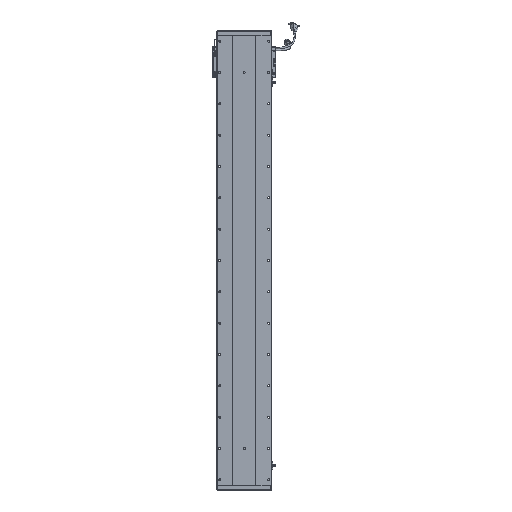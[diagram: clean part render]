
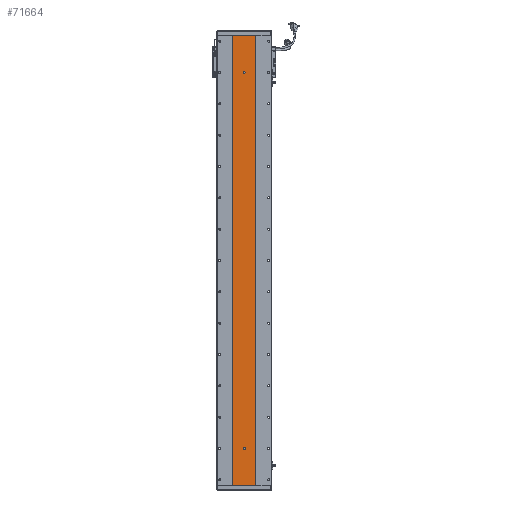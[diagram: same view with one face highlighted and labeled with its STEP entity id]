
A CAD part, front view. The second image highlights one B-rep face of the part: STEP entity #71664.
In plain terms, the highlighted planar face has unit normal (0, -1, 0).
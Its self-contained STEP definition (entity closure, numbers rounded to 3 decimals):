
#399 = DIRECTION ( 'NONE',  ( 0., 0., -1. ) ) ;
#529 = DIRECTION ( 'NONE',  ( 0., 1., 0. ) ) ;
#743 = CIRCLE ( 'NONE', #97708, 3. ) ;
#2106 = EDGE_LOOP ( 'NONE', ( #47056, #19228, #8086, #7489, #86736 ) ) ;
#2882 = DIRECTION ( 'NONE',  ( 1., 0., 0. ) ) ;
#3735 = VERTEX_POINT ( 'NONE', #79257 ) ;
#4926 = FACE_BOUND ( 'NONE', #35235, .T. ) ;
#7489 = ORIENTED_EDGE ( 'NONE', *, *, #50246, .F. ) ;
#8086 = ORIENTED_EDGE ( 'NONE', *, *, #47304, .F. ) ;
#8826 = PLANE ( 'NONE',  #48393 ) ;
#10024 = VERTEX_POINT ( 'NONE', #72390 ) ;
#11588 = VERTEX_POINT ( 'NONE', #69381 ) ;
#12566 = CARTESIAN_POINT ( 'NONE',  ( 3277.529, 1415.701, 120. ) ) ;
#12675 = EDGE_CURVE ( 'NONE', #44612, #71404, #23652, .T. ) ;
#13235 = AXIS2_PLACEMENT_3D ( 'NONE', #52448, #55390, #65189 ) ;
#14333 = CARTESIAN_POINT ( 'NONE',  ( 3283.529, 1415.701, 120. ) ) ;
#16354 = CARTESIAN_POINT ( 'NONE',  ( 3244.748, 1415.701, 1437. ) ) ;
#16861 = LINE ( 'NONE', #59311, #35762 ) ;
#17826 = AXIS2_PLACEMENT_3D ( 'NONE', #31074, #91615, #399 ) ;
#18028 = ORIENTED_EDGE ( 'NONE', *, *, #47496, .T. ) ;
#18218 = LINE ( 'NONE', #22168, #90107 ) ;
#19228 = ORIENTED_EDGE ( 'NONE', *, *, #86811, .F. ) ;
#19736 = CARTESIAN_POINT ( 'NONE',  ( 3244.748, 1415.701, 1437. ) ) ;
#20018 = AXIS2_PLACEMENT_3D ( 'NONE', #93466, #86277, #79410 ) ;
#21148 = VERTEX_POINT ( 'NONE', #92666 ) ;
#22168 = CARTESIAN_POINT ( 'NONE',  ( 3277.529, 1415.701, 120. ) ) ;
#22649 = DIRECTION ( 'NONE',  ( 0., -1., 0. ) ) ;
#23290 = DIRECTION ( 'NONE',  ( 0., 0., 1. ) ) ;
#23652 = CIRCLE ( 'NONE', #49372, 3. ) ;
#25276 = CARTESIAN_POINT ( 'NONE',  ( 3244.748, 1415.701, 0. ) ) ;
#26871 = DIRECTION ( 'NONE',  ( 0., 0., -1. ) ) ;
#27139 = LINE ( 'NONE', #25276, #47234 ) ;
#27336 = ORIENTED_EDGE ( 'NONE', *, *, #30597, .F. ) ;
#29490 = ORIENTED_EDGE ( 'NONE', *, *, #65807, .T. ) ;
#30597 = EDGE_CURVE ( 'NONE', #21148, #83145, #16861, .T. ) ;
#30911 = DIRECTION ( 'NONE',  ( 0., 0., -1. ) ) ;
#31074 = CARTESIAN_POINT ( 'NONE',  ( 3280.529, 1415.701, 117. ) ) ;
#32669 = CIRCLE ( 'NONE', #20018, 3. ) ;
#35235 = EDGE_LOOP ( 'NONE', ( #90416, #50056 ) ) ;
#35274 = DIRECTION ( 'NONE',  ( 0., 0., -1. ) ) ;
#35762 = VECTOR ( 'NONE', #66219, 1000. ) ;
#35927 = CARTESIAN_POINT ( 'NONE',  ( 3280.529, 1415.701, 1321.5 ) ) ;
#38183 = DIRECTION ( 'NONE',  ( 0., -1., 0. ) ) ;
#42042 = CARTESIAN_POINT ( 'NONE',  ( 3316.311, 1415.701, 1437. ) ) ;
#44612 = VERTEX_POINT ( 'NONE', #64200 ) ;
#45783 = CARTESIAN_POINT ( 'NONE',  ( 3280.529, 1415.701, 117. ) ) ;
#47056 = ORIENTED_EDGE ( 'NONE', *, *, #75923, .F. ) ;
#47234 = VECTOR ( 'NONE', #2882, 1000. ) ;
#47304 = EDGE_CURVE ( 'NONE', #60506, #48689, #32669, .T. ) ;
#47496 = EDGE_CURVE ( 'NONE', #21148, #10024, #91436, .T. ) ;
#48393 = AXIS2_PLACEMENT_3D ( 'NONE', #16354, #529, #23290 ) ;
#48689 = VERTEX_POINT ( 'NONE', #12566 ) ;
#49372 = AXIS2_PLACEMENT_3D ( 'NONE', #90481, #38183, #30911 ) ;
#49877 = EDGE_CURVE ( 'NONE', #71404, #44612, #73615, .T. ) ;
#50056 = ORIENTED_EDGE ( 'NONE', *, *, #49877, .F. ) ;
#50246 = EDGE_CURVE ( 'NONE', #88420, #60506, #82939, .T. ) ;
#51834 = CIRCLE ( 'NONE', #17826, 3. ) ;
#52448 = CARTESIAN_POINT ( 'NONE',  ( 3280.529, 1415.701, 1318.5 ) ) ;
#53403 = EDGE_CURVE ( 'NONE', #11588, #88420, #51834, .T. ) ;
#55390 = DIRECTION ( 'NONE',  ( 0., -1., 0. ) ) ;
#56308 = VECTOR ( 'NONE', #35274, 1000. ) ;
#57066 = VECTOR ( 'NONE', #65417, 1000. ) ;
#57208 = CARTESIAN_POINT ( 'NONE',  ( 3316.311, 1415.701, 1437. ) ) ;
#57227 = CARTESIAN_POINT ( 'NONE',  ( 3283.529, 1415.701, 120. ) ) ;
#59311 = CARTESIAN_POINT ( 'NONE',  ( 3244.748, 1415.701, 1437. ) ) ;
#60330 = FACE_BOUND ( 'NONE', #2106, .T. ) ;
#60506 = VERTEX_POINT ( 'NONE', #14333 ) ;
#64200 = CARTESIAN_POINT ( 'NONE',  ( 3280.529, 1415.701, 1315.5 ) ) ;
#65189 = DIRECTION ( 'NONE',  ( 0., 0., -1. ) ) ;
#65417 = DIRECTION ( 'NONE',  ( 0., 0., 1. ) ) ;
#65807 = EDGE_CURVE ( 'NONE', #10024, #3735, #27139, .T. ) ;
#66012 = CARTESIAN_POINT ( 'NONE',  ( 3283.529, 1415.701, 117. ) ) ;
#66219 = DIRECTION ( 'NONE',  ( 1., 0., 0. ) ) ;
#69381 = CARTESIAN_POINT ( 'NONE',  ( 3280.529, 1415.701, 114. ) ) ;
#70134 = EDGE_CURVE ( 'NONE', #83145, #3735, #72522, .T. ) ;
#71404 = VERTEX_POINT ( 'NONE', #35927 ) ;
#71664 = ADVANCED_FACE ( 'NONE', ( #60330, #4926, #73316 ), #8826, .F. ) ;
#72390 = CARTESIAN_POINT ( 'NONE',  ( 3244.748, 1415.701, 0. ) ) ;
#72522 = LINE ( 'NONE', #57208, #97065 ) ;
#73316 = FACE_OUTER_BOUND ( 'NONE', #96087, .T. ) ;
#73615 = CIRCLE ( 'NONE', #13235, 3. ) ;
#75923 = EDGE_CURVE ( 'NONE', #79096, #11588, #743, .T. ) ;
#77540 = CARTESIAN_POINT ( 'NONE',  ( 3277.529, 1415.701, 117. ) ) ;
#79096 = VERTEX_POINT ( 'NONE', #77540 ) ;
#79257 = CARTESIAN_POINT ( 'NONE',  ( 3316.311, 1415.701, 0. ) ) ;
#79410 = DIRECTION ( 'NONE',  ( 0., 0., -1. ) ) ;
#82939 = LINE ( 'NONE', #57227, #57066 ) ;
#83145 = VERTEX_POINT ( 'NONE', #42042 ) ;
#86277 = DIRECTION ( 'NONE',  ( 0., -1., 0. ) ) ;
#86736 = ORIENTED_EDGE ( 'NONE', *, *, #53403, .F. ) ;
#86811 = EDGE_CURVE ( 'NONE', #48689, #79096, #18218, .T. ) ;
#88420 = VERTEX_POINT ( 'NONE', #66012 ) ;
#90107 = VECTOR ( 'NONE', #90283, 1000. ) ;
#90135 = DIRECTION ( 'NONE',  ( 0., 0., -1. ) ) ;
#90283 = DIRECTION ( 'NONE',  ( 0., 0., -1. ) ) ;
#90416 = ORIENTED_EDGE ( 'NONE', *, *, #12675, .F. ) ;
#90481 = CARTESIAN_POINT ( 'NONE',  ( 3280.529, 1415.701, 1318.5 ) ) ;
#91436 = LINE ( 'NONE', #19736, #56308 ) ;
#91615 = DIRECTION ( 'NONE',  ( 0., -1., 0. ) ) ;
#92666 = CARTESIAN_POINT ( 'NONE',  ( 3244.748, 1415.701, 1437. ) ) ;
#93466 = CARTESIAN_POINT ( 'NONE',  ( 3280.529, 1415.701, 120. ) ) ;
#96087 = EDGE_LOOP ( 'NONE', ( #29490, #97196, #27336, #18028 ) ) ;
#97065 = VECTOR ( 'NONE', #26871, 1000. ) ;
#97196 = ORIENTED_EDGE ( 'NONE', *, *, #70134, .F. ) ;
#97708 = AXIS2_PLACEMENT_3D ( 'NONE', #45783, #22649, #90135 ) ;
